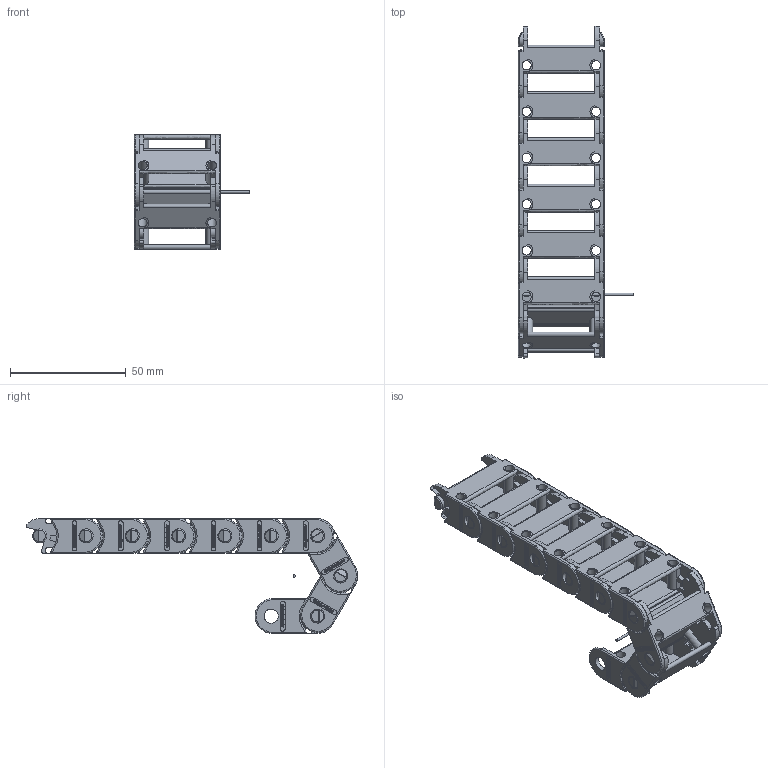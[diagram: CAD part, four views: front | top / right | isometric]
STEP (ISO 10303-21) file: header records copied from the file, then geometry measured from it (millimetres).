
FILE_DESCRIPTION((''),'2;1');
FILE_NAME('C:\Uebbing\PARAMETERKETTEN\KOLIBRI\Kol_15_037_3\Kol_15_037_3_R20.stp','2012-03-02T15:15:47',('Uebbing'),(''),'Autodesk Inventor 10','Autodesk Inventor 10','');
FILE_SCHEMA(('AUTOMOTIVE_DESIGN { 1 0 10303 214 1 1 1 1 }'));
Length unit declared in the file: millimetre
Products named in the file (3): KOLIBRI 15_037_3_PARAMETRISCH; Kol_15_037_3; Achse
Assembly tree (10 placements, depth 2):
  KOLIBRI 15_037_3_PARAMETRISCH
    Kol_15_037_3  x9
    Achse
Bounding box: 50.1 x 143.37 x 49.58 mm (x, y, z)
Volume: 30749.6 mm3; surface area: 36577.5 mm2
Topology: 10 solids, 10 shells, 3720 faces, 9868 edges, 6402 vertices
Faces by surface type: plane 2189, cylinder 820, bspline 639, sphere 36, torus 27, cone 9
Full cylindrical faces by diameter (mm): 0.1 x18, 0.491 x9, 0.862 x9, 1 x1, 4 x9, 6 x9, 6.1 x9
Entity records: 13987 total; most frequent: CARTESIAN_POINT 3628, ORIENTED_EDGE 2162, DIRECTION 2055, EDGE_CURVE 1081, VECTOR 803, LINE 803, VERTEX_POINT 708, AXIS2_PLACEMENT_3D 626
